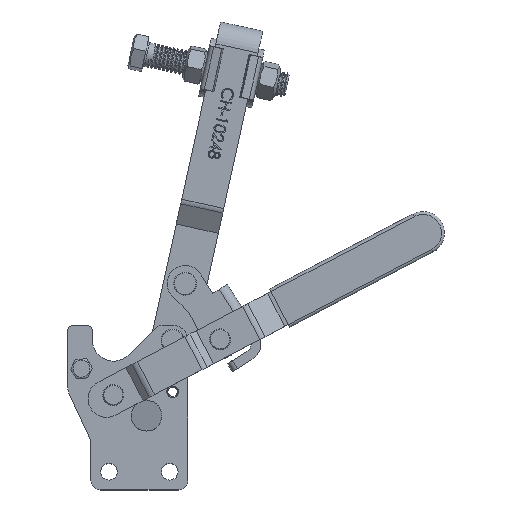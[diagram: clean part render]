
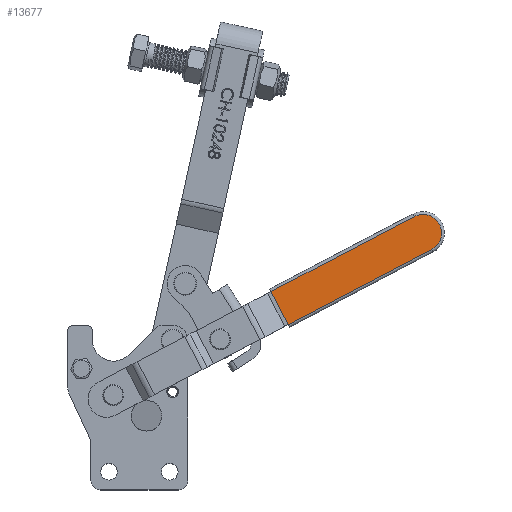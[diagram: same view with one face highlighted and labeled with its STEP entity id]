
A CAD part, top view. The second image highlights one B-rep face of the part: STEP entity #13677.
In plain terms, the highlighted planar face has unit normal (0, 0, 1).
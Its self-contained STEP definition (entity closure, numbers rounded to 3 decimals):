
#1205=PLANE('',#14894);
#1614=FACE_OUTER_BOUND('',#2391,.T.);
#2391=EDGE_LOOP('',(#9942,#9943,#9944,#9945));
#3220=LINE('',#26175,#4292);
#3233=LINE('',#26203,#4305);
#3234=LINE('',#26204,#4306);
#4292=VECTOR('',#16315,1000.);
#4305=VECTOR('',#16342,1000.);
#4306=VECTOR('',#16343,1000.);
#5339=CIRCLE('',#14884,9.75);
#5880=VERTEX_POINT('',#26163);
#5881=VERTEX_POINT('',#26165);
#5884=VERTEX_POINT('',#26172);
#5885=VERTEX_POINT('',#26174);
#7429=EDGE_CURVE('',#5881,#5880,#5339,.T.);
#7433=EDGE_CURVE('',#5885,#5884,#3220,.T.);
#7449=EDGE_CURVE('',#5884,#5881,#3233,.T.);
#7450=EDGE_CURVE('',#5880,#5885,#3234,.T.);
#9942=ORIENTED_EDGE('',*,*,#7433,.T.);
#9943=ORIENTED_EDGE('',*,*,#7449,.T.);
#9944=ORIENTED_EDGE('',*,*,#7429,.T.);
#9945=ORIENTED_EDGE('',*,*,#7450,.T.);
#13677=ADVANCED_FACE('',(#1614),#1205,.T.);
#14884=AXIS2_PLACEMENT_3D('',#26166,#16306,#16307);
#14894=AXIS2_PLACEMENT_3D('',#26202,#16340,#16341);
#16306=DIRECTION('center_axis',(0.,0.,1.));
#16307=DIRECTION('ref_axis',(1.,0.,0.));
#16315=DIRECTION('',(0.,-1.,0.));
#16340=DIRECTION('center_axis',(0.,0.,1.));
#16341=DIRECTION('ref_axis',(1.,0.,0.));
#16342=DIRECTION('',(1.,0.,0.));
#16343=DIRECTION('',(-1.,0.,0.));
#26163=CARTESIAN_POINT('',(0.,9.75,13.));
#26165=CARTESIAN_POINT('',(0.,-9.75,13.));
#26166=CARTESIAN_POINT('Origin',(0.,0.,13.));
#26172=CARTESIAN_POINT('',(-84.75,-9.75,13.));
#26174=CARTESIAN_POINT('',(-84.75,9.75,13.));
#26175=CARTESIAN_POINT('',(-84.75,-11.25,13.));
#26202=CARTESIAN_POINT('Origin',(0.,0.,13.));
#26203=CARTESIAN_POINT('',(0.,-9.75,13.));
#26204=CARTESIAN_POINT('',(-84.75,9.75,13.));
